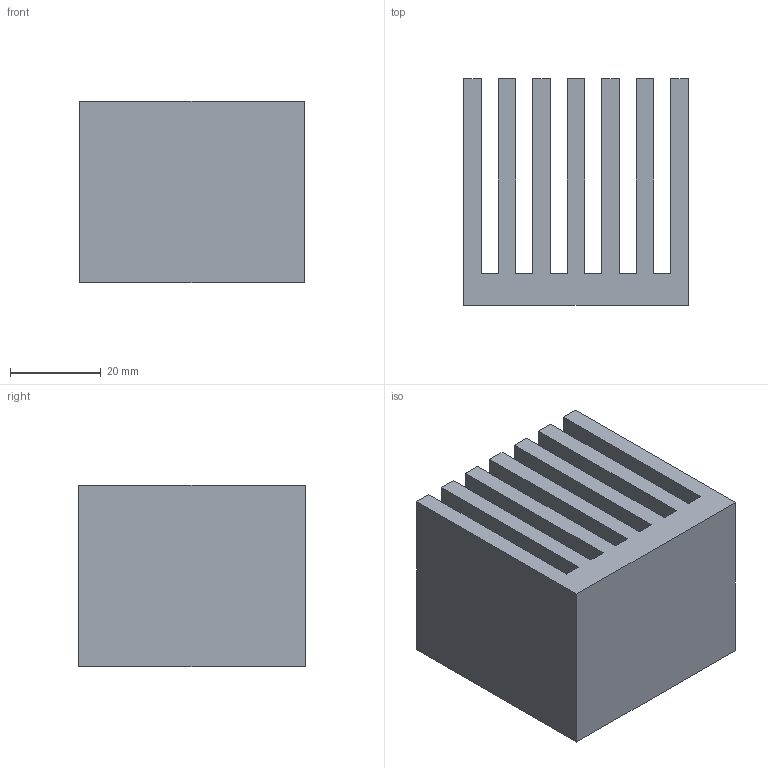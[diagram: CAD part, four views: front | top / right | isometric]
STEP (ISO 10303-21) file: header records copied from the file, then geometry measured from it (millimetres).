
FILE_DESCRIPTION (( 'STEP AP203' ), '1' );
FILE_NAME ('PR402.STEP', '2020-05-20T11:13:23', ( '' ), ( '' ), 'SwSTEP 2.0', 'SolidWorks 2020', '' );
FILE_SCHEMA (( 'CONFIG_CONTROL_DESIGN' ));
Length unit declared in the file: millimetre
Products named in the file (1): PR402
Bounding box: 49.5 x 50 x 40 mm (x, y, z)
Volume: 59704.6 mm3; surface area: 31585.2 mm2
Topology: 1 solids, 1 shells, 30 faces, 84 edges, 56 vertices
Faces by surface type: plane 30
Entity records: 1025 total; most frequent: CARTESIAN_POINT 171, ORIENTED_EDGE 168, DIRECTION 146, EDGE_CURVE 84, LINE 84, VECTOR 84, VERTEX_POINT 56, AXIS2_PLACEMENT_3D 31
